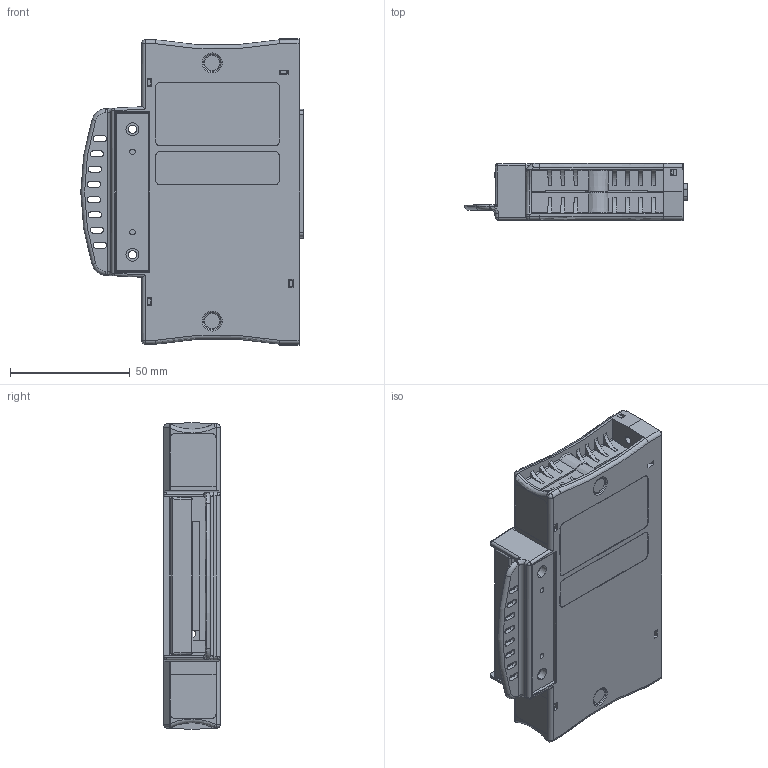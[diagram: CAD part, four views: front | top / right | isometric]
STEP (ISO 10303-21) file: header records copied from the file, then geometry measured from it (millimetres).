
FILE_DESCRIPTION((''),'2;1');
FILE_NAME('CFP_TERM_BLK','2007-03-05T',('chrisj'),(''),'PRO/ENGINEER BY PARAMETRIC TECHNOLOGY CORPORATION, 2006300','PRO/ENGINEER BY PARAMETRIC TECHNOLOGY CORPORATION, 2006300','');
FILE_SCHEMA(('AUTOMOTIVE_DESIGN_CC2 { 1 2 10303 214 -1 1 5 2 }'));
Products named in the file (1): CFP_TERM_BLK
Bounding box: 92.74 x 23.62 x 127.97 mm (x, y, z)
Volume: 82418.2 mm3; surface area: 65683.1 mm2
Topology: 3 solids, 3 shells, 2182 faces, 5789 edges, 3743 vertices
Faces by surface type: plane 1472, cylinder 484, cone 80, torus 62, bspline 44, sphere 40
Entity records: 70420 total; most frequent: CARTESIAN_POINT 16560, ORIENTED_EDGE 11562, DIRECTION 10416, EDGE_CURVE 5781, VECTOR 4424, LINE 4424, VERTEX_POINT 3741, AXIS2_PLACEMENT_3D 2996
